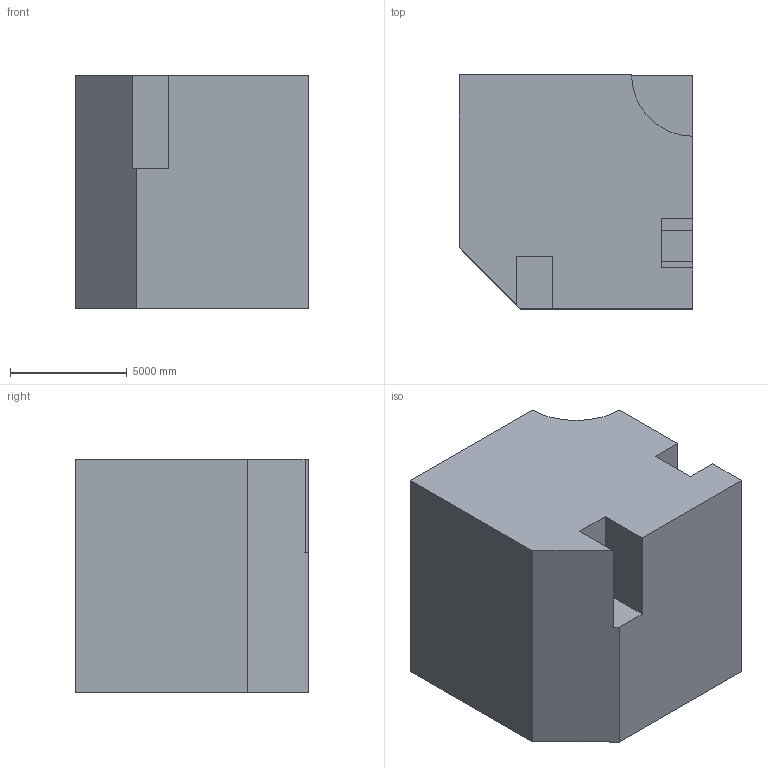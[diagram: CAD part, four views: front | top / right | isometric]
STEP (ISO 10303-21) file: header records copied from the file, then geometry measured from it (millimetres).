
FILE_DESCRIPTION (( 'STEP AP203' ), '1' );
FILE_NAME ('1420.STEP', '2022-08-18T14:22:14', ( 'user' ), ( '' ), 'SwSTEP 2.0', 'SolidWorks 2021', '' );
FILE_SCHEMA (( 'CONFIG_CONTROL_DESIGN' ));
Length unit declared in the file: centimetre
Products named in the file (1): 1420
Bounding box: 10000 x 10000 x 10000 mm (x, y, z)
Volume: 874974489659.2 mm3; surface area: 629910116 mm2
Topology: 1 solids, 1 shells, 23 faces, 63 edges, 42 vertices
Faces by surface type: plane 22, cylinder 1
Entity records: 796 total; most frequent: CARTESIAN_POINT 129, ORIENTED_EDGE 126, DIRECTION 113, EDGE_CURVE 63, LINE 61, VECTOR 61, VERTEX_POINT 42, AXIS2_PLACEMENT_3D 26
